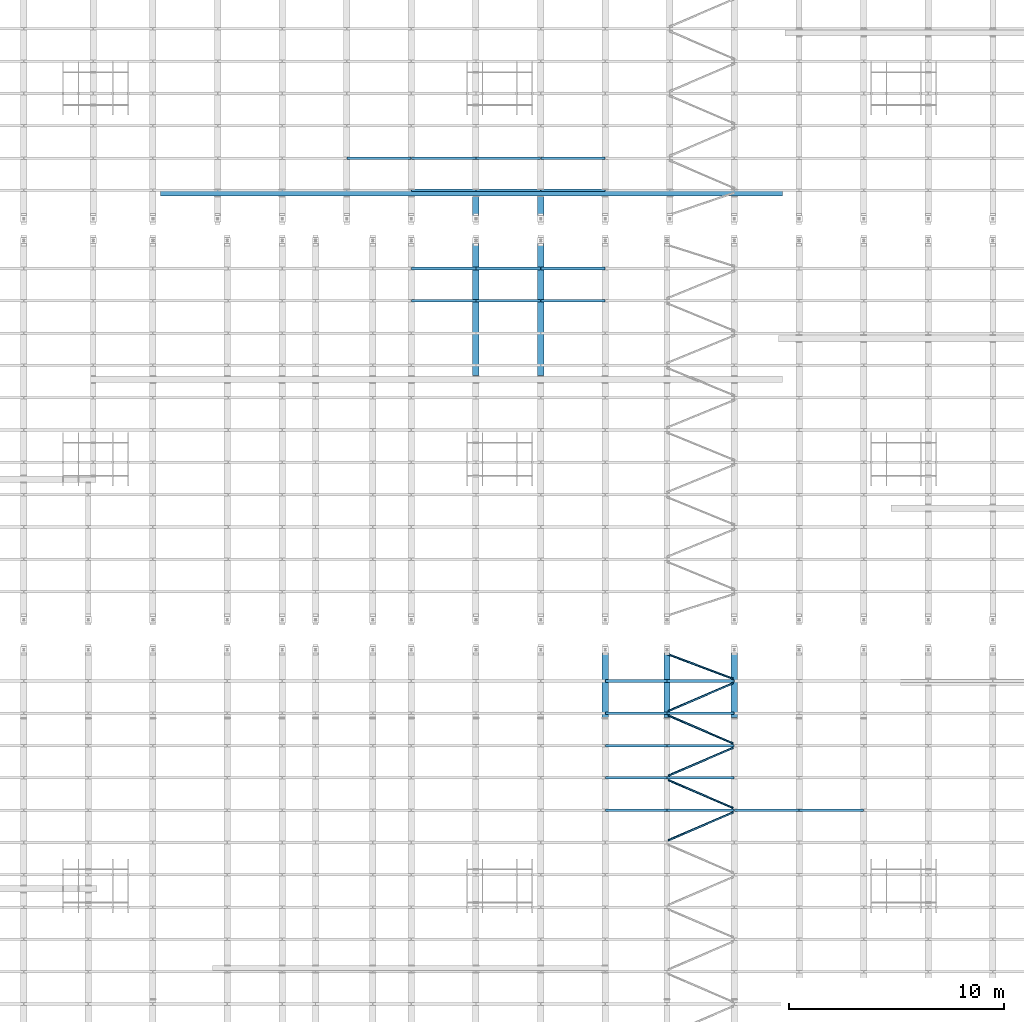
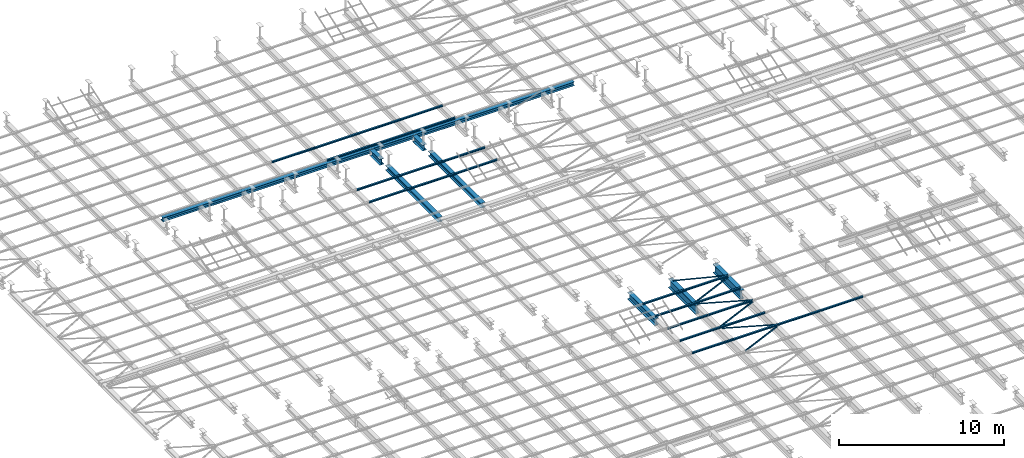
# One storey, part 57 of 139: 39 beams.
"""IFC2X3 building model written with IfcOpenShell, lengths in metres."""

from ifc_helpers import new_model, entity, si_unit, converted_unit, derived_unit, frame, origin, place, context, subcontext, project, spatial, polyline, outline, extrude, material, element, save


model = new_model("IFC2X3")

# Units and contexts
model_context = context("Model", 3, precision=1e-05, world=origin())
body_context = subcontext(model_context, "Body", "Model", "MODEL_VIEW")
ifc_project = project(units=[si_unit("LENGTHUNIT", "METRE"), si_unit("AREAUNIT", "SQUARE_METRE"), si_unit("VOLUMEUNIT", "CUBIC_METRE"), si_unit("MASSUNIT", "GRAM", prefix="KILO"), converted_unit("PLANEANGLEUNIT", "DEGREE", entity("IfcPlaneAngleMeasure", 0.0174532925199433), si_unit("PLANEANGLEUNIT", "RADIAN"), dimensions=[0, 0, 0, 0, 0, 0, 0]), derived_unit("THERMALTRANSMITTANCEUNIT", [(si_unit("POWERUNIT", "WATT"), 1), (si_unit("THERMODYNAMICTEMPERATUREUNIT", "KELVIN"), -1), (si_unit("LENGTHUNIT", "METRE"), -2)]), derived_unit("VOLUMETRICFLOWRATEUNIT", [(si_unit("LENGTHUNIT", "METRE"), 3), (converted_unit("TIMEUNIT", "hour", entity("IfcTimeMeasure", 3600.0), si_unit("TIMEUNIT", "SECOND"), dimensions=[0, 0, 1, 0, 0, 0, 0]), -1), (si_unit("LENGTHUNIT", "METRE"), -1)])], contexts=[model_context])

# Site, building, storey
site_placement = place(None, origin())
site = spatial("IfcSite", under=ifc_project, at=site_placement, Name="TWP_Speiseverteilzentrum SBW VZ II", CompositionType="ELEMENT")
building_placement = place(site_placement, origin())
building = spatial("IfcBuilding", under=site, at=building_placement, Name="Speiseverteilzentrum SBW VZ II", CompositionType="ELEMENT")
storey_placement = place(building_placement, frame((0.0, 0.0, 7.1307)))
storey = spatial("IfcBuildingStorey", under=building, at=storey_placement, Name="Wartung_FFB", CompositionType="ELEMENT", Elevation=7.1307)

# Beams
ifc_material_1 = material(Name="S235")
beam_1_placement = place(storey_placement, frame((22.405, 72.1095015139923, -0.335), z_axis=(0.0, 0.0, 1.0), x_axis=(-1.22464679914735e-16, -1.0, 0.0)))
element("IfcBeam", 1, at=beam_1_placement, inside=storey, material=ifc_material_1, Name="Stahlträger", context=body_context, shape_type="SweptSolid", body=[
    extrude(outline(polyline([(-0.15, 0.145), (-0.15, 0.131), (-0.00424999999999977, 0.131), (-0.00424999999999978, -0.131), (-0.15, -0.131), (-0.15, -0.145), (0.15, -0.145), (0.15, -0.131), (0.00425000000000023, -0.131), (0.00425000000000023, 0.131), (0.15, 0.131), (0.15, 0.145), (-0.15, 0.145)])), frame((0.0, 0.0, 0.0), z_axis=(0.0, 1.0, 0.0), x_axis=(-1.0, 0.0, 0.0)), (0.0, 0.0, 1.0), 28.8746046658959),
])
ifc_material_2 = material(Name="S235")
beam_2_placement = place(storey_placement, frame((37.0500000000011, 70.7522526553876, -0.41), z_axis=(0.0, 0.0, 1.0), x_axis=(1.0, -2.44929359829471e-16, 0.0)))
element("IfcBeam", 2, at=beam_2_placement, inside=storey, material=ifc_material_2, Name="Stahlträger", context=body_context, shape_type="SweptSolid", body=[
    extrude(outline(polyline([(-0.15, 0.22), (-0.15, 0.199), (-0.00574999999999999, 0.199), (-0.00575000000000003, -0.199), (-0.15, -0.199), (-0.15, -0.22), (0.15, -0.22), (0.15, -0.199), (0.00574999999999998, -0.199), (0.00575000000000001, 0.199), (0.15, 0.199), (0.15, 0.22), (-0.15, 0.22)])), frame((0.0, 0.0, 0.0), z_axis=(0.0, 1.0, 0.0), x_axis=(-1.0, 0.0, 0.0)), (0.0, 0.0, 1.0), 1.18224885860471),
])
ifc_material_3 = material(Name="S235")
beam_3_placement = place(storey_placement, frame((40.0500000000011, 70.7522526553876, -0.41), z_axis=(0.0, 0.0, 1.0), x_axis=(1.0, -2.44929359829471e-16, 0.0)))
element("IfcBeam", 3, at=beam_3_placement, inside=storey, material=ifc_material_3, Name="Stahlträger", context=body_context, shape_type="SweptSolid", body=[
    extrude(outline(polyline([(-0.15, 0.22), (-0.15, 0.199), (-0.00574999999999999, 0.199), (-0.00575000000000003, -0.199), (-0.15, -0.199), (-0.15, -0.22), (0.15, -0.22), (0.15, -0.199), (0.00574999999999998, -0.199), (0.00575000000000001, 0.199), (0.15, 0.199), (0.15, 0.22), (-0.15, 0.22)])), frame((0.0, 0.0, 0.0), z_axis=(0.0, 1.0, 0.0), x_axis=(-1.0, 0.0, 0.0)), (0.0, 0.0, 1.0), 1.18224885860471),
])
ifc_material_4 = material(Name="S235")
beam_4_placement = place(storey_placement, frame((37.0500000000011, 70.0522526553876, -0.365), z_axis=(0.0, 0.0, 1.0), x_axis=(-1.0, 0.0, 0.0)))
element("IfcBeam", 4, at=beam_4_placement, inside=storey, material=ifc_material_4, Name="Stahlträger", context=body_context, shape_type="SweptSolid", body=[
    extrude(outline(polyline([(-0.15, 0.175), (-0.15, 0.1575), (-0.00500000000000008, 0.1575), (-0.0050000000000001, -0.1575), (-0.15, -0.1575), (-0.15, -0.175), (0.15, -0.175), (0.15, -0.1575), (0.0049999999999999, -0.1575), (0.00499999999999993, 0.1575), (0.15, 0.1575), (0.15, 0.175), (-0.15, 0.175)])), frame((0.0, 0.0, 0.0), z_axis=(0.0, 1.0, 0.0), x_axis=(-1.0, 0.0, 0.0)), (0.0, 0.0, 1.0), 6.41975940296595),
])
ifc_material_5 = material(Name="S235")
beam_5_placement = place(storey_placement, frame((40.0500000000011, 70.0522526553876, -0.365), z_axis=(0.0, 0.0, 1.0), x_axis=(-1.0, 0.0, 0.0)))
element("IfcBeam", 5, at=beam_5_placement, inside=storey, material=ifc_material_5, Name="Stahlträger", context=body_context, shape_type="SweptSolid", body=[
    extrude(outline(polyline([(-0.15, 0.175), (-0.15, 0.1575), (-0.00500000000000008, 0.1575), (-0.0050000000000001, -0.1575), (-0.15, -0.1575), (-0.15, -0.175), (0.15, -0.175), (0.15, -0.1575), (0.0049999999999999, -0.1575), (0.00499999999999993, 0.1575), (0.15, 0.1575), (0.15, 0.175), (-0.15, 0.175)])), frame((0.0, 0.0, 0.0), z_axis=(0.0, 1.0, 0.0), x_axis=(-1.0, 0.0, 0.0)), (0.0, 0.0, 1.0), 6.41975940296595),
])
ifc_material_6 = material(Name="S235")
beam_6_placement = place(storey_placement, frame((49.0500000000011, 51.0500000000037, -0.51), z_axis=(0.0, 0.0, 1.0), x_axis=(-1.0, 0.0, 0.0)))
element("IfcBeam", 6, at=beam_6_placement, inside=storey, material=ifc_material_6, Name="Stahlträger", context=body_context, shape_type="SweptSolid", body=[
    extrude(outline(polyline([(-0.15, 0.32), (-0.15, 0.294), (-0.00675000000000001, 0.294), (-0.00675000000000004, -0.294), (-0.15, -0.294), (-0.15, -0.32), (0.15, -0.32), (0.15, -0.294), (0.00674999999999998, -0.294), (0.00675000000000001, 0.294), (0.15, 0.294), (0.15, 0.32), (-0.15, 0.32)])), frame((0.0, 0.0, 0.0), z_axis=(0.0, 1.0, 0.0), x_axis=(-1.0, 0.0, 0.0)), (0.0, 0.0, 1.0), 3.2979257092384),
])
ifc_material_7 = material(Name="S235")
beam_7_placement = place(storey_placement, frame((43.0500000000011, 51.0500000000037, -0.435), z_axis=(0.0, 0.0, 1.0), x_axis=(-1.0, 0.0, 0.0)))
element("IfcBeam", 7, at=beam_7_placement, inside=storey, material=ifc_material_7, Name="Stahlträger", context=body_context, shape_type="SweptSolid", body=[
    extrude(outline(polyline([(-0.15, 0.245), (-0.15, 0.222), (-0.00599999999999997, 0.222), (-0.006, -0.222), (-0.15, -0.222), (-0.15, -0.245), (0.15, -0.245), (0.15, -0.222), (0.00600000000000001, -0.222), (0.00600000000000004, 0.222), (0.15, 0.222), (0.15, 0.245), (-0.15, 0.245)])), frame((0.0, 0.0, 0.0), z_axis=(0.0, 1.0, 0.0), x_axis=(-1.0, 0.0, 0.0)), (0.0, 0.0, 1.0), 3.29299999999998),
])
ifc_material_8 = material(Name="S235")
beam_8_placement = place(storey_placement, frame((45.9200000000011, 51.0500000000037, -0.51), z_axis=(0.0, 0.0, 1.0), x_axis=(-1.0, 0.0, 0.0)))
element("IfcBeam", 8, at=beam_8_placement, inside=storey, material=ifc_material_8, Name="Stahlträger", context=body_context, shape_type="SweptSolid", body=[
    extrude(outline(polyline([(-0.15, 0.32), (-0.15, 0.294), (-0.00675000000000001, 0.294), (-0.00675000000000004, -0.294), (-0.15, -0.294), (-0.15, -0.32), (0.15, -0.32), (0.15, -0.294), (0.00674999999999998, -0.294), (0.00675000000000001, 0.294), (0.15, 0.294), (0.15, 0.32), (-0.15, 0.32)])), frame((0.0, 0.0, 0.0), z_axis=(0.0, 1.0, 0.0), x_axis=(-1.0, 0.0, 0.0)), (0.0, 0.0, 1.0), 3.2979257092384),
])
ifc_material_9 = material(Name="S235")
beam_9_placement = place(storey_placement, frame((31.0600000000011, 73.7261263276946, -0.133), z_axis=(0.0, 0.0, 1.0), x_axis=(0.0, -1.0, 0.0)))
element("IfcBeam", 9, at=beam_9_placement, inside=storey, material=ifc_material_9, Name="Nebenträger", context=body_context, shape_type="SweptSolid", body=[
    extrude(outline(polyline([(-0.06, 0.0570000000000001), (-0.06, 0.0490000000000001), (-0.00249999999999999, 0.0490000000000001), (-0.0025, -0.0489999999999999), (-0.06, -0.0489999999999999), (-0.06, -0.0569999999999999), (0.06, -0.0569999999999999), (0.06, -0.0489999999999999), (0.0025, -0.0489999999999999), (0.00250000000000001, 0.0490000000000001), (0.06, 0.0490000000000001), (0.06, 0.0570000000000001), (-0.06, 0.0570000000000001)])), frame((0.0, 0.0, 0.0), z_axis=(0.0, 1.0, 0.0), x_axis=(-1.0, 0.0, 0.0)), (0.0, 0.0, 1.0), 2.98),
])
ifc_material_10 = material(Name="S235")
beam_10_placement = place(storey_placement, frame((34.0600000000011, 73.7261263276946, -0.133), z_axis=(0.0, 0.0, 1.0), x_axis=(0.0, -1.0, 0.0)))
element("IfcBeam", 10, at=beam_10_placement, inside=storey, material=ifc_material_10, Name="Nebenträger", context=body_context, shape_type="SweptSolid", body=[
    extrude(outline(polyline([(-0.06, 0.0570000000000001), (-0.06, 0.0490000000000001), (-0.00249999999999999, 0.0490000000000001), (-0.0025, -0.0489999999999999), (-0.06, -0.0489999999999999), (-0.06, -0.0569999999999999), (0.06, -0.0569999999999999), (0.06, -0.0489999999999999), (0.0025, -0.0489999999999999), (0.00250000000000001, 0.0490000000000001), (0.06, 0.0490000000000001), (0.06, 0.0570000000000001), (-0.06, 0.0570000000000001)])), frame((0.0, 0.0, 0.0), z_axis=(0.0, 1.0, 0.0), x_axis=(-1.0, 0.0, 0.0)), (0.0, 0.0, 1.0), 2.98),
])
ifc_material_11 = material(Name="S235")
beam_11_placement = place(storey_placement, frame((37.0600000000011, 73.7261263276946, -0.133), z_axis=(0.0, 0.0, 1.0), x_axis=(0.0, -1.0, 0.0)))
element("IfcBeam", 11, at=beam_11_placement, inside=storey, material=ifc_material_11, Name="Nebenträger", context=body_context, shape_type="SweptSolid", body=[
    extrude(outline(polyline([(-0.06, 0.0570000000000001), (-0.06, 0.0490000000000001), (-0.00249999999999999, 0.0490000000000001), (-0.0025, -0.0489999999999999), (-0.06, -0.0489999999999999), (-0.06, -0.0569999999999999), (0.06, -0.0569999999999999), (0.06, -0.0489999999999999), (0.0025, -0.0489999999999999), (0.00250000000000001, 0.0490000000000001), (0.06, 0.0490000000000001), (0.06, 0.0570000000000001), (-0.06, 0.0570000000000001)])), frame((0.0, 0.0, 0.0), z_axis=(0.0, 1.0, 0.0), x_axis=(-1.0, 0.0, 0.0)), (0.0, 0.0, 1.0), 2.98),
])
ifc_material_12 = material(Name="S235")
beam_12_placement = place(storey_placement, frame((40.0600000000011, 73.7261263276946, -0.133), z_axis=(0.0, 0.0, 1.0), x_axis=(0.0, -1.0, 0.0)))
element("IfcBeam", 12, at=beam_12_placement, inside=storey, material=ifc_material_12, Name="Nebenträger", context=body_context, shape_type="SweptSolid", body=[
    extrude(outline(polyline([(-0.06, 0.0570000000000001), (-0.06, 0.0490000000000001), (-0.00249999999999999, 0.0490000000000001), (-0.0025, -0.0489999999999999), (-0.06, -0.0489999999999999), (-0.06, -0.0569999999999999), (0.06, -0.0569999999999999), (0.06, -0.0489999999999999), (0.0025, -0.0489999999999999), (0.00250000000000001, 0.0490000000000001), (0.06, 0.0490000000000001), (0.06, 0.0570000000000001), (-0.06, 0.0570000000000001)])), frame((0.0, 0.0, 0.0), z_axis=(0.0, 1.0, 0.0), x_axis=(-1.0, 0.0, 0.0)), (0.0, 0.0, 1.0), 2.98),
])
ifc_material_13 = material(Name="S235")
beam_13_placement = place(storey_placement, frame((34.0600000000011, 72.2261263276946, -0.133), z_axis=(0.0, 0.0, 1.0), x_axis=(0.0, -1.0, 0.0)))
element("IfcBeam", 13, at=beam_13_placement, inside=storey, material=ifc_material_13, Name="Nebenträger", context=body_context, shape_type="SweptSolid", body=[
    extrude(outline(polyline([(-0.06, 0.0570000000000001), (-0.06, 0.0490000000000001), (-0.00249999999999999, 0.0490000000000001), (-0.0025, -0.0489999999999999), (-0.06, -0.0489999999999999), (-0.06, -0.0569999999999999), (0.06, -0.0569999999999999), (0.06, -0.0489999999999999), (0.0025, -0.0489999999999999), (0.00250000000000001, 0.0490000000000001), (0.06, 0.0490000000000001), (0.06, 0.0570000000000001), (-0.06, 0.0570000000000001)])), frame((0.0, 0.0, 0.0), z_axis=(0.0, 1.0, 0.0), x_axis=(-1.0, 0.0, 0.0)), (0.0, 0.0, 1.0), 2.98),
])
ifc_material_14 = material(Name="S235")
beam_14_placement = place(storey_placement, frame((37.0600000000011, 72.2261263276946, -0.133), z_axis=(0.0, 0.0, 1.0), x_axis=(0.0, -1.0, 0.0)))
element("IfcBeam", 14, at=beam_14_placement, inside=storey, material=ifc_material_14, Name="Nebenträger", context=body_context, shape_type="SweptSolid", body=[
    extrude(outline(polyline([(-0.06, 0.0570000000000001), (-0.06, 0.0490000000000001), (-0.00249999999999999, 0.0490000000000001), (-0.0025, -0.0489999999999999), (-0.06, -0.0489999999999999), (-0.06, -0.0569999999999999), (0.06, -0.0569999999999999), (0.06, -0.0489999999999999), (0.0025, -0.0489999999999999), (0.00250000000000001, 0.0490000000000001), (0.06, 0.0490000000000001), (0.06, 0.0570000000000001), (-0.06, 0.0570000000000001)])), frame((0.0, 0.0, 0.0), z_axis=(0.0, 1.0, 0.0), x_axis=(-1.0, 0.0, 0.0)), (0.0, 0.0, 1.0), 2.98),
])
ifc_material_15 = material(Name="S235")
beam_15_placement = place(storey_placement, frame((40.0600000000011, 72.2261263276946, -0.133), z_axis=(0.0, 0.0, 1.0), x_axis=(0.0, -1.0, 0.0)))
element("IfcBeam", 15, at=beam_15_placement, inside=storey, material=ifc_material_15, Name="Nebenträger", context=body_context, shape_type="SweptSolid", body=[
    extrude(outline(polyline([(-0.06, 0.0570000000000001), (-0.06, 0.0490000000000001), (-0.00249999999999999, 0.0490000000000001), (-0.0025, -0.0489999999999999), (-0.06, -0.0489999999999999), (-0.06, -0.0569999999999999), (0.06, -0.0569999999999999), (0.06, -0.0489999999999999), (0.0025, -0.0489999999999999), (0.00250000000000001, 0.0490000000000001), (0.06, 0.0490000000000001), (0.06, 0.0570000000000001), (-0.06, 0.0570000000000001)])), frame((0.0, 0.0, 0.0), z_axis=(0.0, 1.0, 0.0), x_axis=(-1.0, 0.0, 0.0)), (0.0, 0.0, 1.0), 2.98),
])
ifc_material_16 = material(Name="S235")
beam_16_placement = place(storey_placement, frame((34.0600000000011, 68.6011263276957, -0.133), z_axis=(0.0, 0.0, 1.0), x_axis=(0.0, -1.0, 0.0)))
element("IfcBeam", 16, at=beam_16_placement, inside=storey, material=ifc_material_16, Name="Nebenträger", context=body_context, shape_type="SweptSolid", body=[
    extrude(outline(polyline([(-0.06, 0.0570000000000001), (-0.06, 0.0490000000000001), (-0.00249999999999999, 0.0490000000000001), (-0.0025, -0.0489999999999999), (-0.06, -0.0489999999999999), (-0.06, -0.0569999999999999), (0.06, -0.0569999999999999), (0.06, -0.0489999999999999), (0.0025, -0.0489999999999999), (0.00250000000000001, 0.0490000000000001), (0.06, 0.0490000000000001), (0.06, 0.0570000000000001), (-0.06, 0.0570000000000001)])), frame((0.0, 0.0, 0.0), z_axis=(0.0, 1.0, 0.0), x_axis=(-1.0, 0.0, 0.0)), (0.0, 0.0, 1.0), 2.98),
])
ifc_material_17 = material(Name="S235")
beam_17_placement = place(storey_placement, frame((37.0600000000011, 68.6011263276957, -0.133), z_axis=(0.0, 0.0, 1.0), x_axis=(0.0, -1.0, 0.0)))
element("IfcBeam", 17, at=beam_17_placement, inside=storey, material=ifc_material_17, Name="Nebenträger", context=body_context, shape_type="SweptSolid", body=[
    extrude(outline(polyline([(-0.06, 0.0570000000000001), (-0.06, 0.0490000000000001), (-0.00249999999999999, 0.0490000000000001), (-0.0025, -0.0489999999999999), (-0.06, -0.0489999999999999), (-0.06, -0.0569999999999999), (0.06, -0.0569999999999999), (0.06, -0.0489999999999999), (0.0025, -0.0489999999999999), (0.00250000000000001, 0.0490000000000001), (0.06, 0.0490000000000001), (0.06, 0.0570000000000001), (-0.06, 0.0570000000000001)])), frame((0.0, 0.0, 0.0), z_axis=(0.0, 1.0, 0.0), x_axis=(-1.0, 0.0, 0.0)), (0.0, 0.0, 1.0), 2.98),
])
ifc_material_18 = material(Name="S235")
beam_18_placement = place(storey_placement, frame((40.0600000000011, 68.6011263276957, -0.133), z_axis=(0.0, 0.0, 1.0), x_axis=(0.0, -1.0, 0.0)))
element("IfcBeam", 18, at=beam_18_placement, inside=storey, material=ifc_material_18, Name="Nebenträger", context=body_context, shape_type="SweptSolid", body=[
    extrude(outline(polyline([(-0.06, 0.0570000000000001), (-0.06, 0.0490000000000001), (-0.00249999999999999, 0.0490000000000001), (-0.0025, -0.0489999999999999), (-0.06, -0.0489999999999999), (-0.06, -0.0569999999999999), (0.06, -0.0569999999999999), (0.06, -0.0489999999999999), (0.0025, -0.0489999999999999), (0.00250000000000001, 0.0490000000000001), (0.06, 0.0490000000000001), (0.06, 0.0570000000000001), (-0.06, 0.0570000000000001)])), frame((0.0, 0.0, 0.0), z_axis=(0.0, 1.0, 0.0), x_axis=(-1.0, 0.0, 0.0)), (0.0, 0.0, 1.0), 2.98),
])
ifc_material_19 = material(Name="S235")
beam_19_placement = place(storey_placement, frame((34.0600000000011, 67.1011263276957, -0.133), z_axis=(0.0, 0.0, 1.0), x_axis=(0.0, -1.0, 0.0)))
element("IfcBeam", 19, at=beam_19_placement, inside=storey, material=ifc_material_19, Name="Nebenträger", context=body_context, shape_type="SweptSolid", body=[
    extrude(outline(polyline([(-0.06, 0.0570000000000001), (-0.06, 0.0490000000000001), (-0.00249999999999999, 0.0490000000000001), (-0.0025, -0.0489999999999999), (-0.06, -0.0489999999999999), (-0.06, -0.0569999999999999), (0.06, -0.0569999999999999), (0.06, -0.0489999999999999), (0.0025, -0.0489999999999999), (0.00250000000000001, 0.0490000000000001), (0.06, 0.0490000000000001), (0.06, 0.0570000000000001), (-0.06, 0.0570000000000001)])), frame((0.0, 0.0, 0.0), z_axis=(0.0, 1.0, 0.0), x_axis=(-1.0, 0.0, 0.0)), (0.0, 0.0, 1.0), 2.98),
])
ifc_material_20 = material(Name="S235")
beam_20_placement = place(storey_placement, frame((37.0600000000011, 67.1011263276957, -0.133), z_axis=(0.0, 0.0, 1.0), x_axis=(0.0, -1.0, 0.0)))
element("IfcBeam", 20, at=beam_20_placement, inside=storey, material=ifc_material_20, Name="Nebenträger", context=body_context, shape_type="SweptSolid", body=[
    extrude(outline(polyline([(-0.06, 0.0570000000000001), (-0.06, 0.0490000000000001), (-0.00249999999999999, 0.0490000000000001), (-0.0025, -0.0489999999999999), (-0.06, -0.0489999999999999), (-0.06, -0.0569999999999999), (0.06, -0.0569999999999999), (0.06, -0.0489999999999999), (0.0025, -0.0489999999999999), (0.00250000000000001, 0.0490000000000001), (0.06, 0.0490000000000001), (0.06, 0.0570000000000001), (-0.06, 0.0570000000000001)])), frame((0.0, 0.0, 0.0), z_axis=(0.0, 1.0, 0.0), x_axis=(-1.0, 0.0, 0.0)), (0.0, 0.0, 1.0), 2.98),
])
ifc_material_21 = material(Name="S235")
beam_21_placement = place(storey_placement, frame((40.0600000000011, 67.1011263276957, -0.133), z_axis=(0.0, 0.0, 1.0), x_axis=(0.0, -1.0, 0.0)))
element("IfcBeam", 21, at=beam_21_placement, inside=storey, material=ifc_material_21, Name="Nebenträger", context=body_context, shape_type="SweptSolid", body=[
    extrude(outline(polyline([(-0.06, 0.0570000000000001), (-0.06, 0.0490000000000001), (-0.00249999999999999, 0.0490000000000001), (-0.0025, -0.0489999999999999), (-0.06, -0.0489999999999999), (-0.06, -0.0569999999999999), (0.06, -0.0569999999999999), (0.06, -0.0489999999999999), (0.0025, -0.0489999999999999), (0.00250000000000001, 0.0490000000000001), (0.06, 0.0490000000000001), (0.06, 0.0570000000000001), (-0.06, 0.0570000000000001)])), frame((0.0, 0.0, 0.0), z_axis=(0.0, 1.0, 0.0), x_axis=(-1.0, 0.0, 0.0)), (0.0, 0.0, 1.0), 2.98),
])
ifc_material_22 = material(Name="S235")
beam_22_placement = place(storey_placement, frame((49.0600000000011, 43.4500000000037, -0.133), z_axis=(0.0, 0.0, 1.0), x_axis=(0.0, -1.0, 0.0)))
element("IfcBeam", 22, at=beam_22_placement, inside=storey, material=ifc_material_22, Name="Nebenträger", context=body_context, shape_type="SweptSolid", body=[
    extrude(outline(polyline([(-0.06, 0.0570000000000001), (-0.06, 0.0490000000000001), (-0.00249999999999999, 0.0490000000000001), (-0.0025, -0.0489999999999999), (-0.06, -0.0489999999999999), (-0.06, -0.0569999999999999), (0.06, -0.0569999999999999), (0.06, -0.0489999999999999), (0.0025, -0.0489999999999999), (0.00250000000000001, 0.0490000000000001), (0.06, 0.0490000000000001), (0.06, 0.0570000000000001), (-0.06, 0.0570000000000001)])), frame((0.0, 0.0, 0.0), z_axis=(0.0, 1.0, 0.0), x_axis=(-1.0, 0.0, 0.0)), (0.0, 0.0, 1.0), 2.98),
])
ifc_material_23 = material(Name="S235")
beam_23_placement = place(storey_placement, frame((52.0600000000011, 43.4500000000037, -0.133), z_axis=(0.0, 0.0, 1.0), x_axis=(0.0, -1.0, 0.0)))
element("IfcBeam", 23, at=beam_23_placement, inside=storey, material=ifc_material_23, Name="Nebenträger", context=body_context, shape_type="SweptSolid", body=[
    extrude(outline(polyline([(-0.06, 0.0570000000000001), (-0.06, 0.0490000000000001), (-0.00249999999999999, 0.0490000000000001), (-0.0025, -0.0489999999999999), (-0.06, -0.0489999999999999), (-0.06, -0.0569999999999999), (0.06, -0.0569999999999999), (0.06, -0.0489999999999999), (0.0025, -0.0489999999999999), (0.00250000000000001, 0.0490000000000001), (0.06, 0.0490000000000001), (0.06, 0.0570000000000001), (-0.06, 0.0570000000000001)])), frame((0.0, 0.0, 0.0), z_axis=(0.0, 1.0, 0.0), x_axis=(-1.0, 0.0, 0.0)), (0.0, 0.0, 1.0), 2.98),
])
ifc_material_24 = material(Name="S235")
beam_24_placement = place(storey_placement, frame((43.0600000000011, 49.4500000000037, -0.133), z_axis=(0.0, 0.0, 1.0), x_axis=(0.0, -1.0, 0.0)))
element("IfcBeam", 24, at=beam_24_placement, inside=storey, material=ifc_material_24, Name="Nebenträger", context=body_context, shape_type="SweptSolid", body=[
    extrude(outline(polyline([(-0.06, 0.0570000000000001), (-0.06, 0.0490000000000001), (-0.00249999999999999, 0.0490000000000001), (-0.0025, -0.0489999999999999), (-0.06, -0.0489999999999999), (-0.06, -0.0569999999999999), (0.06, -0.0569999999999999), (0.06, -0.0489999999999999), (0.0025, -0.0489999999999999), (0.00250000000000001, 0.0490000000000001), (0.06, 0.0490000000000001), (0.06, 0.0570000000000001), (-0.06, 0.0570000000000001)])), frame((0.0, 0.0, 0.0), z_axis=(0.0, 1.0, 0.0), x_axis=(-1.0, 0.0, 0.0)), (0.0, 0.0, 1.0), 2.84999999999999),
])
ifc_material_25 = material(Name="S235")
beam_25_placement = place(storey_placement, frame((45.9300000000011, 49.4500000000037, -0.133), z_axis=(0.0, 0.0, 1.0), x_axis=(0.0, -1.0, 0.0)))
element("IfcBeam", 25, at=beam_25_placement, inside=storey, material=ifc_material_25, Name="Nebenträger", context=body_context, shape_type="SweptSolid", body=[
    extrude(outline(polyline([(-0.06, 0.0570000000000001), (-0.06, 0.0490000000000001), (-0.00249999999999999, 0.0490000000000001), (-0.0025, -0.0489999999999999), (-0.06, -0.0489999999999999), (-0.06, -0.0569999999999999), (0.06, -0.0569999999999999), (0.06, -0.0489999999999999), (0.0025, -0.0489999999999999), (0.00250000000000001, 0.0490000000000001), (0.06, 0.0490000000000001), (0.06, 0.0570000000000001), (-0.06, 0.0570000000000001)])), frame((0.0, 0.0, 0.0), z_axis=(0.0, 1.0, 0.0), x_axis=(-1.0, 0.0, 0.0)), (0.0, 0.0, 1.0), 3.11000000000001),
])
ifc_material_26 = material(Name="S235")
beam_26_placement = place(storey_placement, frame((43.0600000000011, 47.9500000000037, -0.133), z_axis=(0.0, 0.0, 1.0), x_axis=(0.0, -1.0, 0.0)))
element("IfcBeam", 26, at=beam_26_placement, inside=storey, material=ifc_material_26, Name="Nebenträger", context=body_context, shape_type="SweptSolid", body=[
    extrude(outline(polyline([(-0.06, 0.0570000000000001), (-0.06, 0.0490000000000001), (-0.00249999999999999, 0.0490000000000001), (-0.0025, -0.0489999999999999), (-0.06, -0.0489999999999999), (-0.06, -0.0569999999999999), (0.06, -0.0569999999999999), (0.06, -0.0489999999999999), (0.0025, -0.0489999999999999), (0.00250000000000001, 0.0490000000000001), (0.06, 0.0490000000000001), (0.06, 0.0570000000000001), (-0.06, 0.0570000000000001)])), frame((0.0, 0.0, 0.0), z_axis=(0.0, 1.0, 0.0), x_axis=(-1.0, 0.0, 0.0)), (0.0, 0.0, 1.0), 2.84999999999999),
])
ifc_material_27 = material(Name="S235")
beam_27_placement = place(storey_placement, frame((45.9300000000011, 47.9500000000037, -0.133), z_axis=(0.0, 0.0, 1.0), x_axis=(0.0, -1.0, 0.0)))
element("IfcBeam", 27, at=beam_27_placement, inside=storey, material=ifc_material_27, Name="Nebenträger", context=body_context, shape_type="SweptSolid", body=[
    extrude(outline(polyline([(-0.06, 0.0570000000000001), (-0.06, 0.0490000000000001), (-0.00249999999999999, 0.0490000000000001), (-0.0025, -0.0489999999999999), (-0.06, -0.0489999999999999), (-0.06, -0.0569999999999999), (0.06, -0.0569999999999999), (0.06, -0.0489999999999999), (0.0025, -0.0489999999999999), (0.00250000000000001, 0.0490000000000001), (0.06, 0.0490000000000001), (0.06, 0.0570000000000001), (-0.06, 0.0570000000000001)])), frame((0.0, 0.0, 0.0), z_axis=(0.0, 1.0, 0.0), x_axis=(-1.0, 0.0, 0.0)), (0.0, 0.0, 1.0), 3.11000000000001),
])
ifc_material_28 = material(Name="S235")
beam_28_placement = place(storey_placement, frame((43.0600000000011, 46.4500000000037, -0.133), z_axis=(0.0, 0.0, 1.0), x_axis=(0.0, -1.0, 0.0)))
element("IfcBeam", 28, at=beam_28_placement, inside=storey, material=ifc_material_28, Name="Nebenträger", context=body_context, shape_type="SweptSolid", body=[
    extrude(outline(polyline([(-0.06, 0.0570000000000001), (-0.06, 0.0490000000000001), (-0.00249999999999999, 0.0490000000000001), (-0.0025, -0.0489999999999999), (-0.06, -0.0489999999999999), (-0.06, -0.0569999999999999), (0.06, -0.0569999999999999), (0.06, -0.0489999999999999), (0.0025, -0.0489999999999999), (0.00250000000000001, 0.0490000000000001), (0.06, 0.0490000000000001), (0.06, 0.0570000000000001), (-0.06, 0.0570000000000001)])), frame((0.0, 0.0, 0.0), z_axis=(0.0, 1.0, 0.0), x_axis=(-1.0, 0.0, 0.0)), (0.0, 0.0, 1.0), 2.84999999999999),
])
ifc_material_29 = material(Name="S235")
beam_29_placement = place(storey_placement, frame((45.9300000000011, 46.4500000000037, -0.133), z_axis=(0.0, 0.0, 1.0), x_axis=(0.0, -1.0, 0.0)))
element("IfcBeam", 29, at=beam_29_placement, inside=storey, material=ifc_material_29, Name="Nebenträger", context=body_context, shape_type="SweptSolid", body=[
    extrude(outline(polyline([(-0.06, 0.0570000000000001), (-0.06, 0.0490000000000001), (-0.00249999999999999, 0.0490000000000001), (-0.0025, -0.0489999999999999), (-0.06, -0.0489999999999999), (-0.06, -0.0569999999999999), (0.06, -0.0569999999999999), (0.06, -0.0489999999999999), (0.0025, -0.0489999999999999), (0.00250000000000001, 0.0490000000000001), (0.06, 0.0490000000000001), (0.06, 0.0570000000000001), (-0.06, 0.0570000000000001)])), frame((0.0, 0.0, 0.0), z_axis=(0.0, 1.0, 0.0), x_axis=(-1.0, 0.0, 0.0)), (0.0, 0.0, 1.0), 3.11000000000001),
])
ifc_material_30 = material(Name="S235")
beam_30_placement = place(storey_placement, frame((43.0600000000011, 44.9500000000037, -0.133), z_axis=(0.0, 0.0, 1.0), x_axis=(0.0, -1.0, 0.0)))
element("IfcBeam", 30, at=beam_30_placement, inside=storey, material=ifc_material_30, Name="Nebenträger", context=body_context, shape_type="SweptSolid", body=[
    extrude(outline(polyline([(-0.06, 0.0570000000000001), (-0.06, 0.0490000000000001), (-0.00249999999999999, 0.0490000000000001), (-0.0025, -0.0489999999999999), (-0.06, -0.0489999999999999), (-0.06, -0.0569999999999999), (0.06, -0.0569999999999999), (0.06, -0.0489999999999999), (0.0025, -0.0489999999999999), (0.00250000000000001, 0.0490000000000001), (0.06, 0.0490000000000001), (0.06, 0.0570000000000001), (-0.06, 0.0570000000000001)])), frame((0.0, 0.0, 0.0), z_axis=(0.0, 1.0, 0.0), x_axis=(-1.0, 0.0, 0.0)), (0.0, 0.0, 1.0), 2.84999999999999),
])
ifc_material_31 = material(Name="S235")
beam_31_placement = place(storey_placement, frame((45.9300000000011, 44.9500000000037, -0.133), z_axis=(0.0, 0.0, 1.0), x_axis=(0.0, -1.0, 0.0)))
element("IfcBeam", 31, at=beam_31_placement, inside=storey, material=ifc_material_31, Name="Nebenträger", context=body_context, shape_type="SweptSolid", body=[
    extrude(outline(polyline([(-0.06, 0.0570000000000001), (-0.06, 0.0490000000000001), (-0.00249999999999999, 0.0490000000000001), (-0.0025, -0.0489999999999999), (-0.06, -0.0489999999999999), (-0.06, -0.0569999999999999), (0.06, -0.0569999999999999), (0.06, -0.0489999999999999), (0.0025, -0.0489999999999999), (0.00250000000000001, 0.0490000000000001), (0.06, 0.0490000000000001), (0.06, 0.0570000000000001), (-0.06, 0.0570000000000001)])), frame((0.0, 0.0, 0.0), z_axis=(0.0, 1.0, 0.0), x_axis=(-1.0, 0.0, 0.0)), (0.0, 0.0, 1.0), 3.11000000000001),
])
ifc_material_32 = material(Name="S235")
beam_32_placement = place(storey_placement, frame((43.0600000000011, 43.4500000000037, -0.133), z_axis=(0.0, 0.0, 1.0), x_axis=(0.0, -1.0, 0.0)))
element("IfcBeam", 32, at=beam_32_placement, inside=storey, material=ifc_material_32, Name="Nebenträger", context=body_context, shape_type="SweptSolid", body=[
    extrude(outline(polyline([(-0.06, 0.0570000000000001), (-0.06, 0.0490000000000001), (-0.00249999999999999, 0.0490000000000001), (-0.0025, -0.0489999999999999), (-0.06, -0.0489999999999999), (-0.06, -0.0569999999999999), (0.06, -0.0569999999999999), (0.06, -0.0489999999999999), (0.0025, -0.0489999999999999), (0.00250000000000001, 0.0490000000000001), (0.06, 0.0490000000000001), (0.06, 0.0570000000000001), (-0.06, 0.0570000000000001)])), frame((0.0, 0.0, 0.0), z_axis=(0.0, 1.0, 0.0), x_axis=(-1.0, 0.0, 0.0)), (0.0, 0.0, 1.0), 2.84999999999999),
])
ifc_material_33 = material(Name="S235")
beam_33_placement = place(storey_placement, frame((45.9300000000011, 43.4500000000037, -0.133), z_axis=(0.0, 0.0, 1.0), x_axis=(0.0, -1.0, 0.0)))
element("IfcBeam", 33, at=beam_33_placement, inside=storey, material=ifc_material_33, Name="Nebenträger", context=body_context, shape_type="SweptSolid", body=[
    extrude(outline(polyline([(-0.06, 0.0570000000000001), (-0.06, 0.0490000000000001), (-0.00249999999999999, 0.0490000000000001), (-0.0025, -0.0489999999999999), (-0.06, -0.0489999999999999), (-0.06, -0.0569999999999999), (0.06, -0.0569999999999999), (0.06, -0.0489999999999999), (0.0025, -0.0489999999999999), (0.00250000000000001, 0.0490000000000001), (0.06, 0.0490000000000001), (0.06, 0.0570000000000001), (-0.06, 0.0570000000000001)])), frame((0.0, 0.0, 0.0), z_axis=(0.0, 1.0, 0.0), x_axis=(-1.0, 0.0, 0.0)), (0.0, 0.0, 1.0), 3.11000000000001),
])
ifc_material_34 = material(Name="S235")
beam_34_placement = place(storey_placement, frame((45.9756913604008, 42.0683930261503, -0.167052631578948), z_axis=(0.0, 0.0, 1.0), x_axis=(0.395932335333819, -0.91827968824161, 0.0)))
element("IfcBeam", 34, at=beam_34_placement, inside=storey, material=ifc_material_34, Name="Kreuzverband", context=body_context, shape_type="SweptSolid", body=[
    extrude(outline(polyline([(0.0229473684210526, -0.0229473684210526), (0.0229473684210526, 0.0570526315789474), (0.0149473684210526, 0.0570526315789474), (0.0149473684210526, -0.0149473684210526), (-0.0570526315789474, -0.0149473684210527), (-0.0570526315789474, -0.0229473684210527), (0.0229473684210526, -0.0229473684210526)])), frame((0.0, 0.0, 0.0), z_axis=(0.0, 0.999999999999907, 0.0), x_axis=(-1.0, 0.0, 0.0)), (0.0, 0.0, 1.0), 3.27000000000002),
])
ifc_material_35 = material(Name="S235")
beam_35_placement = place(storey_placement, frame((45.9756913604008, 44.8316069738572, -0.167052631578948), z_axis=(0.0, 0.0, 1.0), x_axis=(-0.395932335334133, -0.918279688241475, 0.0)))
element("IfcBeam", 35, at=beam_35_placement, inside=storey, material=ifc_material_35, Name="Kreuzverband", context=body_context, shape_type="SweptSolid", body=[
    extrude(outline(polyline([(0.0570526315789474, -0.0229473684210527), (0.0570526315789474, -0.0149473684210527), (-0.0149473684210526, -0.0149473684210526), (-0.0149473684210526, 0.0570526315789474), (-0.0229473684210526, 0.0570526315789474), (-0.0229473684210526, -0.0229473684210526), (0.0570526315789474, -0.0229473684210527)])), frame((0.0, 0.0, 0.0), z_axis=(0.0, 1.00000000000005, 0.0), x_axis=(-1.0, 0.0, 0.0)), (0.0, 0.0, 1.0), 3.27000000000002),
])
ifc_material_36 = material(Name="S235")
beam_36_placement = place(storey_placement, frame((45.9756913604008, 45.0683930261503, -0.167052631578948), z_axis=(0.0, 0.0, 1.0), x_axis=(0.395932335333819, -0.91827968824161, 0.0)))
element("IfcBeam", 36, at=beam_36_placement, inside=storey, material=ifc_material_36, Name="Kreuzverband", context=body_context, shape_type="SweptSolid", body=[
    extrude(outline(polyline([(0.0229473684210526, -0.0229473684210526), (0.0229473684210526, 0.0570526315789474), (0.0149473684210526, 0.0570526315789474), (0.0149473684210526, -0.0149473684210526), (-0.0570526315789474, -0.0149473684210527), (-0.0570526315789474, -0.0229473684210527), (0.0229473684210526, -0.0229473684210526)])), frame((0.0, 0.0, 0.0), z_axis=(0.0, 0.999999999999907, 0.0), x_axis=(-1.0, 0.0, 0.0)), (0.0, 0.0, 1.0), 3.27000000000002),
])
ifc_material_37 = material(Name="S235")
beam_37_placement = place(storey_placement, frame((45.9756913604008, 47.8316069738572, -0.167052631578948), z_axis=(0.0, 0.0, 1.0), x_axis=(-0.395932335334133, -0.918279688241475, 0.0)))
element("IfcBeam", 37, at=beam_37_placement, inside=storey, material=ifc_material_37, Name="Kreuzverband", context=body_context, shape_type="SweptSolid", body=[
    extrude(outline(polyline([(0.0570526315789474, -0.0229473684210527), (0.0570526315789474, -0.0149473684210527), (-0.0149473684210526, -0.0149473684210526), (-0.0149473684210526, 0.0570526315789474), (-0.0229473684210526, 0.0570526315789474), (-0.0229473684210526, -0.0229473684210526), (0.0570526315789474, -0.0229473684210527)])), frame((0.0, 0.0, 0.0), z_axis=(0.0, 1.00000000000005, 0.0), x_axis=(-1.0, 0.0, 0.0)), (0.0, 0.0, 1.0), 3.27000000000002),
])
ifc_material_38 = material(Name="S235")
beam_38_placement = place(storey_placement, frame((45.9756913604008, 48.0683930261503, -0.167052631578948), z_axis=(0.0, 0.0, 1.0), x_axis=(0.395932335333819, -0.91827968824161, 0.0)))
element("IfcBeam", 38, at=beam_38_placement, inside=storey, material=ifc_material_38, Name="Kreuzverband", context=body_context, shape_type="SweptSolid", body=[
    extrude(outline(polyline([(0.0229473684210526, -0.0229473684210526), (0.0229473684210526, 0.0570526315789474), (0.0149473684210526, 0.0570526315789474), (0.0149473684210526, -0.0149473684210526), (-0.0570526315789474, -0.0149473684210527), (-0.0570526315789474, -0.0229473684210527), (0.0229473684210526, -0.0229473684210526)])), frame((0.0, 0.0, 0.0), z_axis=(0.0, 0.999999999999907, 0.0), x_axis=(-1.0, 0.0, 0.0)), (0.0, 0.0, 1.0), 3.27000000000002),
])
ifc_material_39 = material(Name="S235")
beam_39_placement = place(storey_placement, frame((45.9071367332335, 50.6912469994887, -0.167052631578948), z_axis=(0.0, 0.0, 1.0), x_axis=(-0.351808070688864, -0.936072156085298, 0.0)))
element("IfcBeam", 39, at=beam_39_placement, inside=storey, material=ifc_material_39, Name="Kreuzverband", context=body_context, shape_type="SweptSolid", body=[
    extrude(outline(polyline([(0.0570526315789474, -0.0229473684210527), (0.0570526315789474, -0.0149473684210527), (-0.0149473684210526, -0.0149473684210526), (-0.0149473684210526, 0.0570526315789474), (-0.0229473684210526, 0.0570526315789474), (-0.0229473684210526, -0.0229473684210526), (0.0570526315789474, -0.0229473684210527)])), frame((0.0, 0.0, 0.0), z_axis=(0.0, 1.00000000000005, 0.0), x_axis=(-1.0, 0.0, 0.0)), (0.0, 0.0, 1.0), 3.28000000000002),
])

save(model, "model.ifc")
